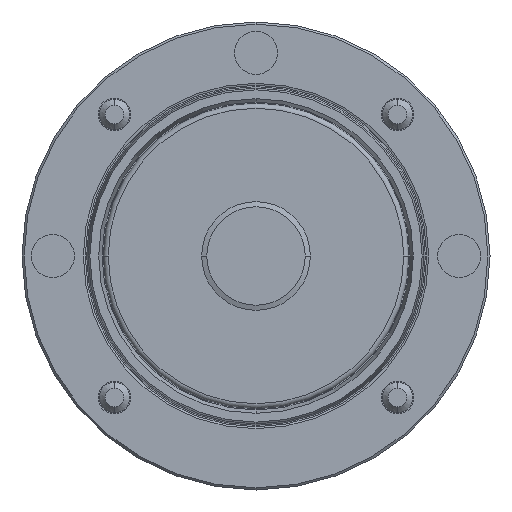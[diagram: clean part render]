
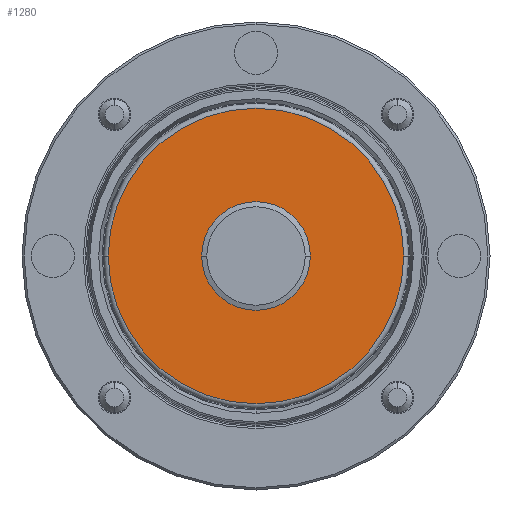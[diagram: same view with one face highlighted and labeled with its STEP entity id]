
A CAD part, front view. The second image highlights one B-rep face of the part: STEP entity #1280.
In plain terms, the highlighted planar face has unit normal (0, -1, 0).
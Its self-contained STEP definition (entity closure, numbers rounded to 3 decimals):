
#1139 = VERTEX_POINT ( 'NONE', #5071 ) ;
#1153 = EDGE_CURVE ( 'NONE', #1168, #1155, #5051, .T. ) ;
#1155 = VERTEX_POINT ( 'NONE', #5095 ) ;
#1168 = VERTEX_POINT ( 'NONE', #5073 ) ;
#1190 = EDGE_CURVE ( 'NONE', #1139, #1213, #5161, .T. ) ;
#1213 = VERTEX_POINT ( 'NONE', #5192 ) ;
#1262 = ORIENTED_EDGE ( 'NONE', *, *, #1264, .T. ) ;
#1263 = ORIENTED_EDGE ( 'NONE', *, *, #1265, .T. ) ;
#1264 = EDGE_CURVE ( 'NONE', #1155, #1168, #5234, .T. ) ;
#1265 = EDGE_CURVE ( 'NONE', #1213, #1139, #5227, .T. ) ;
#1268 = ORIENTED_EDGE ( 'NONE', *, *, #1153, .T. ) ;
#1270 = EDGE_LOOP ( 'NONE', ( #1272, #1263 ) ) ;
#1272 = ORIENTED_EDGE ( 'NONE', *, *, #1190, .T. ) ;
#1280 = ADVANCED_FACE ( 'NONE', ( #5316, #5264 ), #5318, .F. ) ;
#1282 = EDGE_LOOP ( 'NONE', ( #1262, #1268 ) ) ;
#5042 = AXIS2_PLACEMENT_3D ( 'NONE', #5046, #5100, #5099 ) ;
#5046 = CARTESIAN_POINT ( 'NONE',  ( 0., -13., 0. ) ) ;
#5051 = CIRCLE ( 'NONE', #5042, 24. ) ;
#5071 = CARTESIAN_POINT ( 'NONE',  ( 0., -13., 8.824 ) ) ;
#5073 = CARTESIAN_POINT ( 'NONE',  ( 0., -13., -24. ) ) ;
#5095 = CARTESIAN_POINT ( 'NONE',  ( 0., -13., 24. ) ) ;
#5099 = DIRECTION ( 'NONE',  ( 0., 0., 1. ) ) ;
#5100 = DIRECTION ( 'NONE',  ( 0., -1., 0. ) ) ;
#5147 = DIRECTION ( 'NONE',  ( 0., 0., 1. ) ) ;
#5148 = DIRECTION ( 'NONE',  ( 0., 1., 0. ) ) ;
#5149 = CARTESIAN_POINT ( 'NONE',  ( 0., -13., 0. ) ) ;
#5156 = AXIS2_PLACEMENT_3D ( 'NONE', #5149, #5148, #5147 ) ;
#5161 = CIRCLE ( 'NONE', #5156, 8.824 ) ;
#5192 = CARTESIAN_POINT ( 'NONE',  ( 0., -13., -8.824 ) ) ;
#5227 = CIRCLE ( 'NONE', #5277, 8.824 ) ;
#5234 = CIRCLE ( 'NONE', #5283, 24. ) ;
#5262 = AXIS2_PLACEMENT_3D ( 'NONE', #5272, #5306, #5305 ) ;
#5264 = FACE_BOUND ( 'NONE', #1270, .T. ) ;
#5272 = CARTESIAN_POINT ( 'NONE',  ( 24.8, -13., 0. ) ) ;
#5275 = DIRECTION ( 'NONE',  ( 0., 0., 1. ) ) ;
#5276 = DIRECTION ( 'NONE',  ( 0., 1., 0. ) ) ;
#5277 = AXIS2_PLACEMENT_3D ( 'NONE', #5284, #5276, #5275 ) ;
#5280 = DIRECTION ( 'NONE',  ( 0., 0., 1. ) ) ;
#5281 = DIRECTION ( 'NONE',  ( 0., -1., 0. ) ) ;
#5282 = CARTESIAN_POINT ( 'NONE',  ( 0., -13., 0. ) ) ;
#5283 = AXIS2_PLACEMENT_3D ( 'NONE', #5282, #5281, #5280 ) ;
#5284 = CARTESIAN_POINT ( 'NONE',  ( 0., -13., 0. ) ) ;
#5305 = DIRECTION ( 'NONE',  ( 0., 0., 1. ) ) ;
#5306 = DIRECTION ( 'NONE',  ( 0., 1., 0. ) ) ;
#5316 = FACE_OUTER_BOUND ( 'NONE', #1282, .T. ) ;
#5318 = PLANE ( 'NONE',  #5262 ) ;
